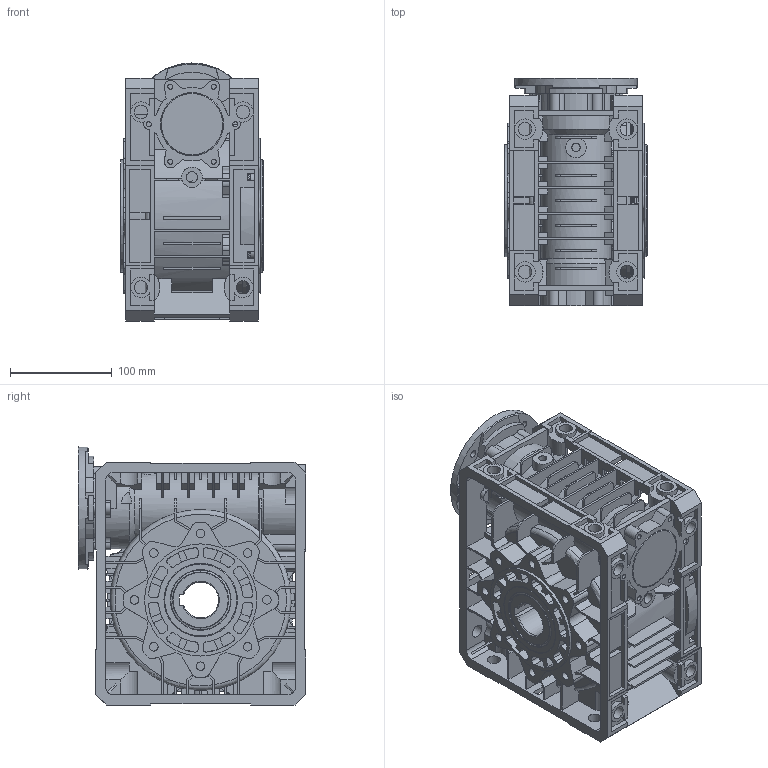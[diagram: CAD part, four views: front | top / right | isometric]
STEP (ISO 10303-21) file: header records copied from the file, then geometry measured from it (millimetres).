
FILE_DESCRIPTION((''),'2;1');
FILE_NAME('C:\Users\m.piscopiello.SITIRIDUTTORI\Desktop\FIGURINI VSF\FIGURINI U-MU 90\MU 90 PAM 80 B14.stp','2016-03-08T09:46:39',('m.piscopiello'),(''),'Autodesk Inventor 2012','Autodesk Inventor 2012','');
FILE_SCHEMA(('CONFIG_CONTROL_DESIGN'));
Length unit declared in the file: millimetre
Products named in the file (1): 3F021145
Bounding box: 140 x 223 x 253 mm (x, y, z)
Volume: 2428122.3 mm3; surface area: 768828.8 mm2
Topology: 3 solids, 30 shells, 2806 faces, 7668 edges, 4898 vertices
Faces by surface type: plane 1283, cylinder 861, torus 377, cone 205, bspline 80
Full cylindrical faces by diameter (mm): 4.917 x12, 5.719 x6, 6 x6, 6.5 x6, 6.647 x8, 7 x4, 8 x17, 8.376 x16, 9 x8, 11 x2, 12 x14, 13 x28, 20 x5, 40 x2, 43.75 x1, 45.438 x1, 54 x1, 55 x4, 56 x2, 58.875 x1, 59 x1, 60.438 x2, 62 x2, 68 x1, 68.6 x2, 72 x4, 80 x2, 90 x2, 101.5 x2, 110 x3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
Entity records: 90960 total; most frequent: CARTESIAN_POINT 21144, DIRECTION 14623, ORIENTED_EDGE 14494, EDGE_CURVE 7247, AXIS2_PLACEMENT_3D 5543, VERTEX_POINT 4789, VECTOR 3537, LINE 3537
